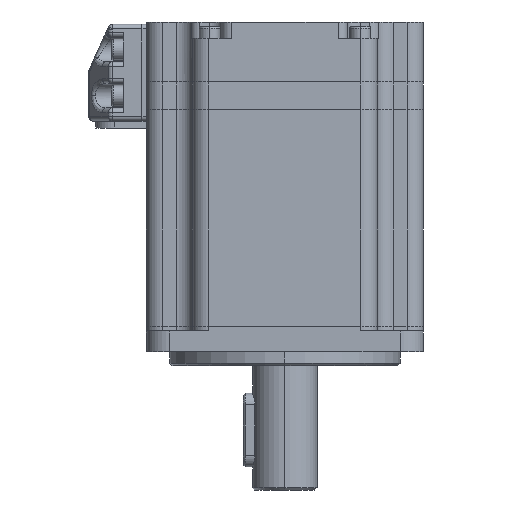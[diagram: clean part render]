
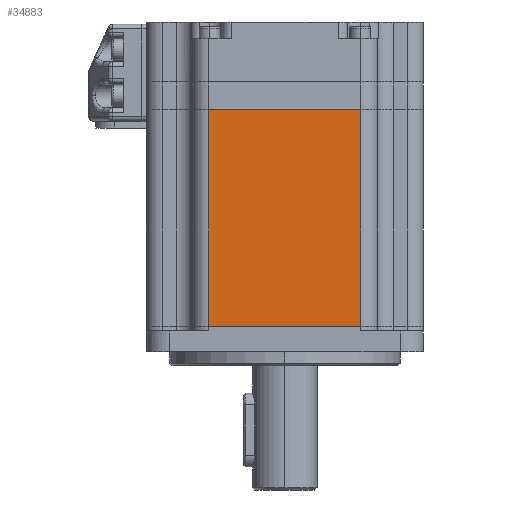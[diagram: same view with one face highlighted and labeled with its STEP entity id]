
A CAD part, left-side view. The second image highlights one B-rep face of the part: STEP entity #34883.
In plain terms, the highlighted planar face has unit normal (-1, 0, 0).
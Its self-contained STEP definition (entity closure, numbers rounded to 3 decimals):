
#94 = VERTEX_POINT ( 'NONE', #19244 ) ;
#329 = CARTESIAN_POINT ( 'NONE',  ( -30., 16.5, 82.5 ) ) ;
#507 = EDGE_LOOP ( 'NONE', ( #730, #25408, #21756, #36377 ) ) ;
#730 = ORIENTED_EDGE ( 'NONE', *, *, #3850, .F. ) ;
#1124 = DIRECTION ( 'NONE',  ( 0., 0., 1. ) ) ;
#1252 = DIRECTION ( 'NONE',  ( 1., 0., 0. ) ) ;
#1955 = VECTOR ( 'NONE', #21462, 1000. ) ;
#2487 = DIRECTION ( 'NONE',  ( 0., 0., 1. ) ) ;
#3850 = EDGE_CURVE ( 'NONE', #32602, #94, #7427, .T. ) ;
#4650 = EDGE_CURVE ( 'NONE', #16525, #39169, #31084, .T. ) ;
#5253 = FACE_OUTER_BOUND ( 'NONE', #507, .T. ) ;
#6969 = DIRECTION ( 'NONE',  ( 0., 1., 0. ) ) ;
#6989 = CARTESIAN_POINT ( 'NONE',  ( -30., -16.5, 82.5 ) ) ;
#7427 = LINE ( 'NONE', #36952, #11715 ) ;
#8548 = VECTOR ( 'NONE', #2487, 1000. ) ;
#10185 = CARTESIAN_POINT ( 'NONE',  ( -30., 16.5, 82.5 ) ) ;
#11715 = VECTOR ( 'NONE', #6969, 1000. ) ;
#14077 = CARTESIAN_POINT ( 'NONE',  ( -30., -16.5, 35.5 ) ) ;
#16525 = VERTEX_POINT ( 'NONE', #10185 ) ;
#19151 = EDGE_CURVE ( 'NONE', #32602, #39169, #37832, .T. ) ;
#19215 = PLANE ( 'NONE',  #24553 ) ;
#19244 = CARTESIAN_POINT ( 'NONE',  ( -30., 16.5, 35.5 ) ) ;
#21462 = DIRECTION ( 'NONE',  ( 0., 0., -1. ) ) ;
#21756 = ORIENTED_EDGE ( 'NONE', *, *, #4650, .F. ) ;
#21905 = EDGE_CURVE ( 'NONE', #16525, #94, #30829, .T. ) ;
#24553 = AXIS2_PLACEMENT_3D ( 'NONE', #31407, #1252, #1124 ) ;
#25408 = ORIENTED_EDGE ( 'NONE', *, *, #19151, .T. ) ;
#26013 = DIRECTION ( 'NONE',  ( 0., -1., 0. ) ) ;
#29069 = CARTESIAN_POINT ( 'NONE',  ( -30., -16.5, 82.5 ) ) ;
#29201 = VECTOR ( 'NONE', #26013, 1000. ) ;
#30829 = LINE ( 'NONE', #329, #1955 ) ;
#31084 = LINE ( 'NONE', #34854, #29201 ) ;
#31407 = CARTESIAN_POINT ( 'NONE',  ( -30., 20., 82.5 ) ) ;
#32602 = VERTEX_POINT ( 'NONE', #14077 ) ;
#34854 = CARTESIAN_POINT ( 'NONE',  ( -30., 20., 82.5 ) ) ;
#34883 = ADVANCED_FACE ( 'NONE', ( #5253 ), #19215, .F. ) ;
#36377 = ORIENTED_EDGE ( 'NONE', *, *, #21905, .T. ) ;
#36952 = CARTESIAN_POINT ( 'NONE',  ( -30., -16.5, 35.5 ) ) ;
#37832 = LINE ( 'NONE', #29069, #8548 ) ;
#39169 = VERTEX_POINT ( 'NONE', #6989 ) ;
